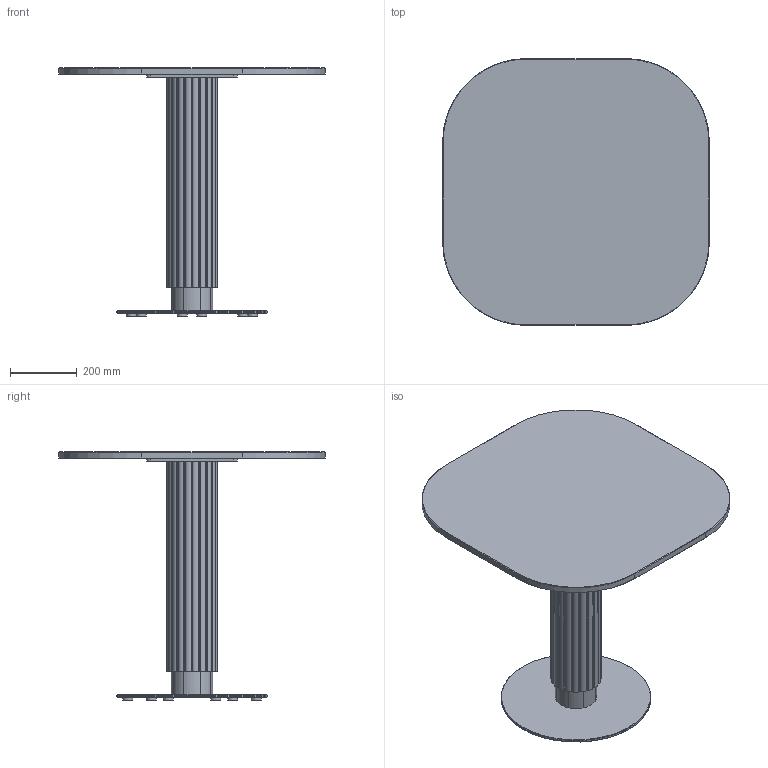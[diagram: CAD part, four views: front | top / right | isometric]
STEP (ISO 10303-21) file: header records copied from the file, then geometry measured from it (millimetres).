
FILE_DESCRIPTION( ('This file contains a STEP AP42 implementation' ,'as created by ZW3D STEP Interface translator.') ,'2;1' );
FILE_NAME( 'God - B_Rond - F2 - M1 - 800 x 800 x 750.stp' ,'24 912.114459', (''), ('ZWCAD Software Co.'), 'Version 1.0', 'ZW3D to STEP translator', '' );
FILE_SCHEMA(('AUTOMOTIVE_DESIGN { 1 0 10303 214 1 1 1 1 }'));
Length unit declared in the file: millimetre
Products named in the file (15): 0; PIED BISTROT PARAMETRIQUE_; SOCLE ACIER C Ø450 V.02_; SCL-D450-02_; PLA-R30A-01_; PLA-R30A-01; CROIX ACIER 370 V.02_; CRX-X370-02_; COLONNE ACIER Ø48.5 V.02_; TUB-D048-02_; PLA-R48A-01_; Colonne GODRON H700_; WUERTH 0276063020 Euro-screw 6.3x2 Verzinkt_; PLATEAU BISTROT PARAMETRIQUE_; insert_m6_13_
Assembly tree (25 placements, depth 3):
  0
  PIED BISTROT PARAMETRIQUE_
    SOCLE ACIER C Ø450 V.02_
      SCL-D450-02_
      PLA-R30A-01_
      PLA-R30A-01  x5
    CROIX ACIER 370 V.02_
      CRX-X370-02_
    COLONNE ACIER Ø48.5 V.02_
      TUB-D048-02_
      PLA-R48A-01_  x2
    Colonne GODRON H700_
    WUERTH 0276063020 Euro-screw 6.3x2 Verzinkt_
    PLATEAU BISTROT PARAMETRIQUE_
      insert_m6_13_  x8
Bounding box: 800 x 800 x 744 mm (x, y, z)
Volume: 24061090 mm3; surface area: 2972833 mm2
Topology: 29 solids, 29 shells, 656 faces, 1625 edges, 1042 vertices
Faces by surface type: plane 294, cylinder 193, bspline 121, cone 47, torus 1
Full cylindrical faces by diameter (mm): 4.88 x1, 6 x8, 6.3 x1, 8 x47, 12 x2, 14 x2, 30 x6, 44.5 x3, 48.5 x1, 450 x1
Entity records: 16234 total; most frequent: CARTESIAN_POINT 4039, DIRECTION 2249, ORIENTED_EDGE 2240, EDGE_CURVE 1120, AXIS2_PLACEMENT_3D 800, VERTEX_POINT 728, VECTOR 649, LINE 649
